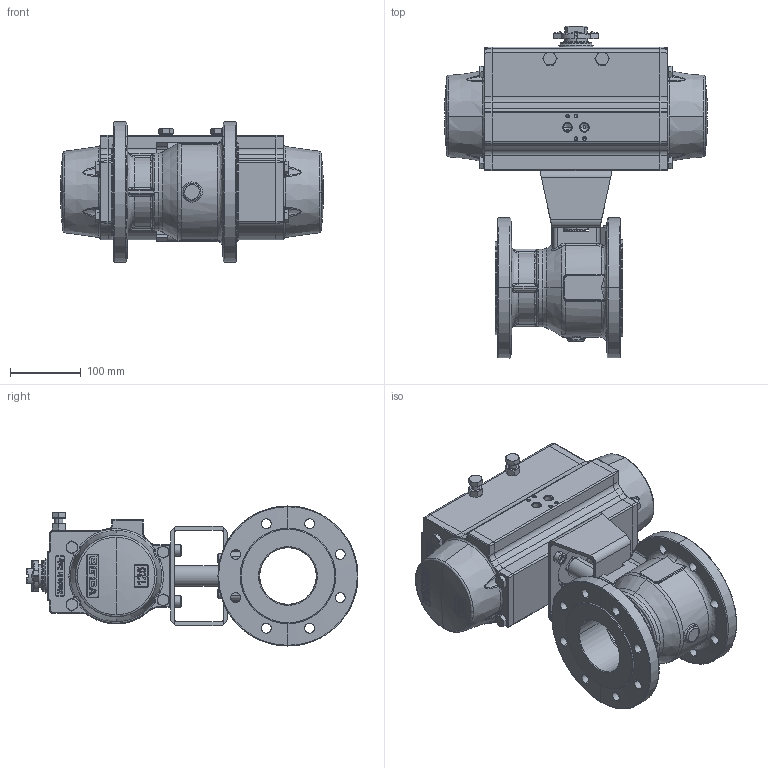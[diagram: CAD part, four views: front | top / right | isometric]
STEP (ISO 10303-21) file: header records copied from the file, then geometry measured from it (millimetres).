
FILE_DESCRIPTION (( 'STEP AP214' ), '1' );
FILE_NAME ('8P00460014.STEP', '2017-07-04T05:30:08', ( 'Bernardelli' ), ( 'Hewlett-Packard Company' ), 'SwSTEP 2.0', 'SolidWorks 2015', '' );
FILE_SCHEMA (( 'AUTOMOTIVE_DESIGN' ));
Length unit declared in the file: millimetre
Products named in the file (1): 8P00460014
Bounding box: 371.83 x 469.4 x 198 mm (x, y, z)
Volume: 9413243.1 mm3; surface area: 547219.4 mm2
Topology: 1 solids, 1 shells, 2241 faces, 5794 edges, 3545 vertices
Faces by surface type: plane 800, bspline 695, cylinder 383, cone 324, torus 27, sphere 12
Entity records: 133690 total; most frequent: CARTESIAN_POINT 73109, ORIENTED_EDGE 11374, DIRECTION 7221, EDGE_CURVE 5687, VERTEX_POINT 3545, AXIS2_PLACEMENT_3D 2605, B_SPLINE_CURVE_WITH_KNOTS 2418, EDGE_LOOP 2400
